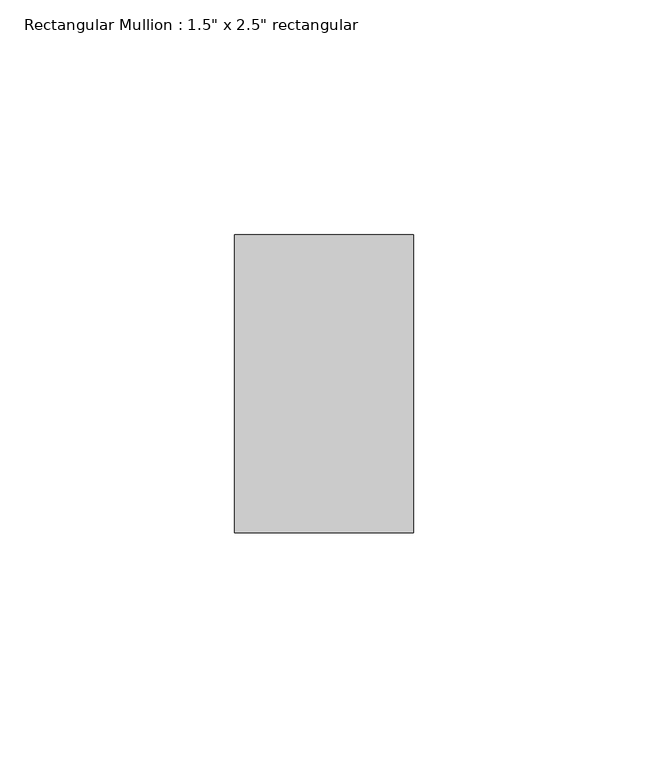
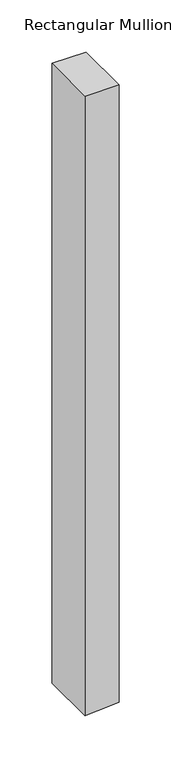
"""IFC4 building model written with IfcOpenShell, lengths in millimetres: member geometry."""

from ifc_helpers import new_model, si_unit, frame, origin, place, context, project, spatial, polyline, outline, extrude, source, transform, mapped, element, save


def member_bcc2c360(model_context):
    return source(origin(), model_context, "Body", "SweptSolid", [
        extrude(outline(polyline([(0.0, 19.05), (0.0, -19.05), (-727.3631654, -19.05), (-725.9869538, -4.8788776), (-724.6220991, 19.05), (0.0, 19.05)])), frame((0.0, -31.75, 0.0), z_axis=(0.0, 1.0, 0.0), x_axis=(0.0, 0.0, 1.0)), (0.0, 0.0, 1.0), 63.5),
    ])


if __name__ == "__main__":
    model = new_model("IFC4")
    model_context = context("Model", 3, world=origin())
    ifc_project = project(units=[si_unit("LENGTHUNIT", "METRE", prefix="MILLI")], contexts=[model_context])
    site = spatial("IfcSite", under=ifc_project)
    building = spatial("IfcBuilding", under=site)
    placement = place(None, origin())
    member_shape = member_bcc2c360(model_context)
    element("IfcMember", 1, ObjectType="Rectangular Mullion : 1.5\" x 2.5\" rectangular", at=placement, inside=building, context=model_context, shape_type="MappedRepresentation", body=[
        mapped(member_shape, transform((0.0, 0.0, 0.0), x_axis=(1.0, 0.0, 0.0), y_axis=(0.0, 1.0, 0.0), z_axis=(0.0, 0.0, 1.0))),
    ])
    save(model, "model.ifc")
